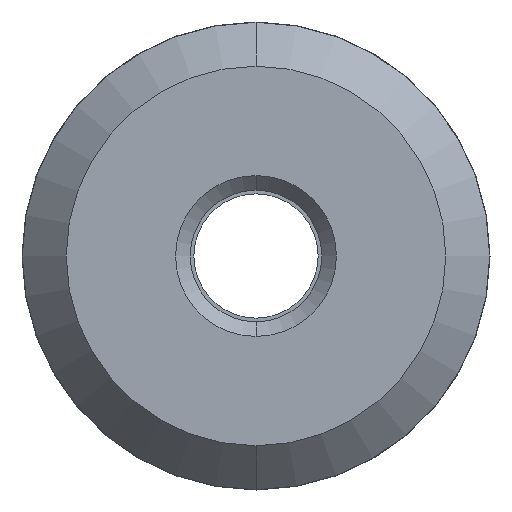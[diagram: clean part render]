
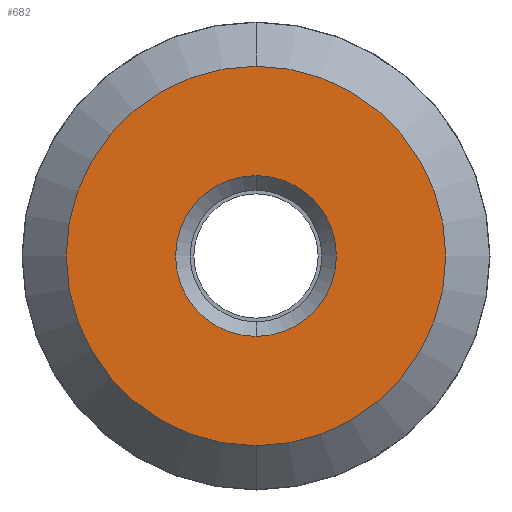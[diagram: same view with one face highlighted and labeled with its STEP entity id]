
A CAD part, front view. The second image highlights one B-rep face of the part: STEP entity #682.
In plain terms, the highlighted planar face has unit normal (0, -1, 0).
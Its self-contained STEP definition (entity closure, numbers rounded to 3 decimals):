
#578=CARTESIAN_POINT('Axis2P3D Location',(0.,0.,0.)) ;
#582=CARTESIAN_POINT('Vertex',(0.,0.,-12.975)) ;
#584=CARTESIAN_POINT('Vertex',(0.,0.,12.975)) ;
#609=CARTESIAN_POINT('Axis2P3D Location',(0.,0.,0.)) ;
#630=CARTESIAN_POINT('Vertex',(0.,0.,5.5)) ;
#637=CARTESIAN_POINT('Vertex',(0.,0.,-5.5)) ;
#640=CARTESIAN_POINT('Axis2P3D Location',(0.,0.,0.)) ;
#657=CARTESIAN_POINT('Axis2P3D Location',(0.,0.,0.)) ;
#669=CARTESIAN_POINT('Axis2P3D Location',(-10.125,0.,0.)) ;
#579=DIRECTION('Axis2P3D Direction',(0.,1.,0.)) ;
#610=DIRECTION('Axis2P3D Direction',(0.,1.,0.)) ;
#641=DIRECTION('Axis2P3D Direction',(0.,-1.,-0.)) ;
#658=DIRECTION('Axis2P3D Direction',(0.,-1.,-0.)) ;
#670=DIRECTION('Axis2P3D Direction',(0.,-1.,0.)) ;
#671=DIRECTION('Axis2P3D XDirection',(0.,0.,-1.)) ;
#580=AXIS2_PLACEMENT_3D('Circle Axis2P3D',#578,#579,$) ;
#611=AXIS2_PLACEMENT_3D('Circle Axis2P3D',#609,#610,$) ;
#642=AXIS2_PLACEMENT_3D('Circle Axis2P3D',#640,#641,$) ;
#659=AXIS2_PLACEMENT_3D('Circle Axis2P3D',#657,#658,$) ;
#672=AXIS2_PLACEMENT_3D('Plane Axis2P3D',#669,#670,#671) ;
#675=ORIENTED_EDGE('',*,*,#613,.T.) ;
#676=ORIENTED_EDGE('',*,*,#586,.T.) ;
#679=ORIENTED_EDGE('',*,*,#644,.F.) ;
#680=ORIENTED_EDGE('',*,*,#661,.F.) ;
#681=FACE_BOUND('',#678,.T.) ;
#682=ADVANCED_FACE('Rivoluzione1',(#677,#681),#673,.T.) ;
#581=CIRCLE('generated circle',#580,12.975) ;
#612=CIRCLE('generated circle',#611,12.975) ;
#643=CIRCLE('generated circle',#642,5.5) ;
#660=CIRCLE('generated circle',#659,5.5) ;
#586=EDGE_CURVE('',#583,#585,#581,.F.) ;
#613=EDGE_CURVE('',#585,#583,#612,.F.) ;
#644=EDGE_CURVE('',#638,#631,#643,.T.) ;
#661=EDGE_CURVE('',#631,#638,#660,.T.) ;
#674=EDGE_LOOP('',(#675,#676)) ;
#678=EDGE_LOOP('',(#679,#680)) ;
#677=FACE_OUTER_BOUND('',#674,.T.) ;
#673=PLANE('Plane',#672) ;
#583=VERTEX_POINT('',#582) ;
#585=VERTEX_POINT('',#584) ;
#631=VERTEX_POINT('',#630) ;
#638=VERTEX_POINT('',#637) ;
